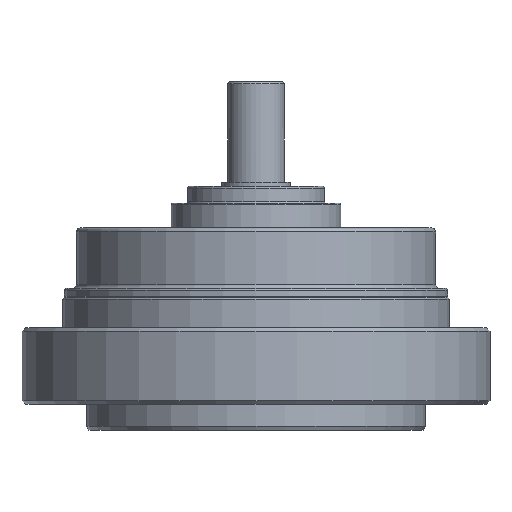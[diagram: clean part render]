
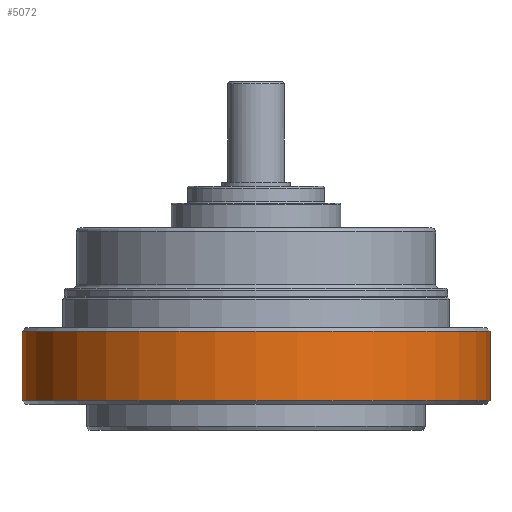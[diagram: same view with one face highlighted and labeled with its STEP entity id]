
A CAD part, front view. The second image highlights one B-rep face of the part: STEP entity #5072.
In plain terms, the highlighted cylindrical face has radius 58 mm (diameter 116 mm), a full revolution.
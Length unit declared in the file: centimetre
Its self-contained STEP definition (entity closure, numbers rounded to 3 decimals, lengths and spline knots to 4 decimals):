
#351=FACE_BOUND('',#1973,.T.);
#553=CYLINDRICAL_SURFACE('',#5605,5.8);
#1449=FACE_OUTER_BOUND('',#1972,.T.);
#1972=EDGE_LOOP('',(#4229));
#1973=EDGE_LOOP('',(#4230));
#2387=CIRCLE('',#5601,5.8);
#2390=CIRCLE('',#5606,5.8);
#2760=VERTEX_POINT('',#8246);
#2763=VERTEX_POINT('',#8254);
#3296=EDGE_CURVE('',#2760,#2760,#2387,.T.);
#3299=EDGE_CURVE('',#2763,#2763,#2390,.T.);
#4229=ORIENTED_EDGE('',*,*,#3296,.F.);
#4230=ORIENTED_EDGE('',*,*,#3299,.F.);
#5072=ADVANCED_FACE('',(#1449,#351),#553,.T.);
#5601=AXIS2_PLACEMENT_3D('',#8247,#6729,#6730);
#5605=AXIS2_PLACEMENT_3D('',#8253,#6737,#6738);
#5606=AXIS2_PLACEMENT_3D('',#8255,#6739,#6740);
#6729=DIRECTION('center_axis',(0.,0.,1.));
#6730=DIRECTION('ref_axis',(0.,1.,0.));
#6737=DIRECTION('center_axis',(0.,0.,1.));
#6738=DIRECTION('ref_axis',(0.,-1.,0.));
#6739=DIRECTION('center_axis',(0.,0.,-1.));
#6740=DIRECTION('ref_axis',(0.,1.,0.));
#8246=CARTESIAN_POINT('',(0.,-5.8,2.46));
#8247=CARTESIAN_POINT('Origin',(0.,0.,2.46));
#8253=CARTESIAN_POINT('Origin',(0.,0.,1.6));
#8254=CARTESIAN_POINT('',(0.,-5.8,0.74));
#8255=CARTESIAN_POINT('Origin',(0.,0.,0.74));
